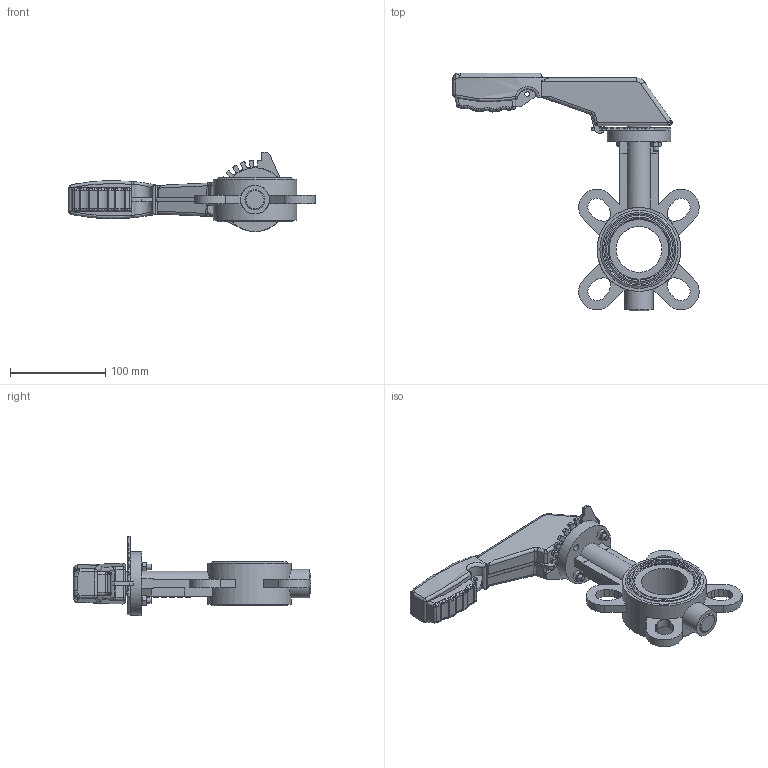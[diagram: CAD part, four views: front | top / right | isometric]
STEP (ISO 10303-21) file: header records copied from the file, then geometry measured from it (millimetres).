
FILE_DESCRIPTION((''),'2;1');
FILE_NAME('K:\Inventor\1 Artikel\10) Absperrklappen\10a) manuell\Witzel\830-GGG, Euronomic BA\830-GGG, DN50\830-GGG, DN50, 3D\830-GGG, DN50, PN6-16, HH, 3D.stp','2019-08-14T09:54:45',('claudia'),(''),'Autodesk Inventor 2013','Autodesk Inventor 2013','');
FILE_SCHEMA(('AUTOMOTIVE_DESIGN { 1 0 10303 214 1 1 1 1 }'));
Length unit declared in the file: millimetre
Products named in the file (1): Bauteil1
Bounding box: 258.37 x 249.4 x 83.12 mm (x, y, z)
Volume: 633738.9 mm3; surface area: 99973.1 mm2
Topology: 1 solids, 2 shells, 1275 faces, 3436 edges, 2243 vertices
Faces by surface type: plane 548, bspline 457, cylinder 173, cone 47, torus 36, sphere 14
Full cylindrical faces by diameter (mm): 5 x1, 5.387 x2, 6 x4, 7 x4, 8 x2, 11.3 x2, 21 x1, 25 x1, 27 x1, 30 x1, 48.1 x1, 67 x1, 82 x2, 88 x1
Entity records: 47770 total; most frequent: CARTESIAN_POINT 18703, ORIENTED_EDGE 6714, DIRECTION 4505, EDGE_CURVE 3357, VERTEX_POINT 2228, VECTOR 1791, LINE 1791, EDGE_LOOP 1429
